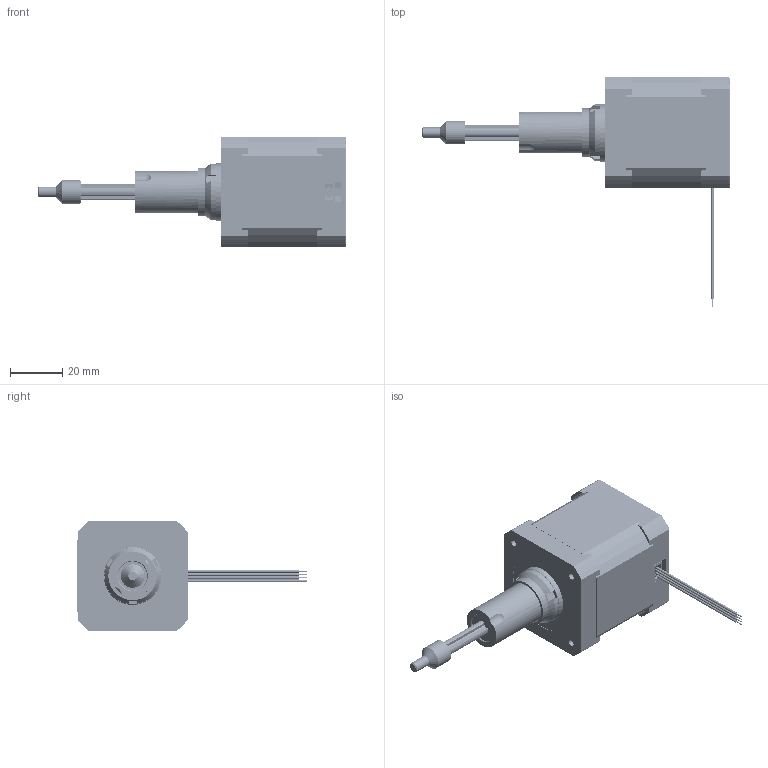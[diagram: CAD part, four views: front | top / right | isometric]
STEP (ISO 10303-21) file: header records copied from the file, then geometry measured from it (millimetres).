
FILE_DESCRIPTION((''),'2;1');
FILE_NAME('42CC4X-X-XXX-XXX_ASM','2023-03-24T',('guangyan.zhou'),(''),'CREO PARAMETRIC BY PTC INC, 2017300','CREO PARAMETRIC BY PTC INC, 2017300','');
FILE_SCHEMA(('CONFIG_CONTROL_DESIGN'));
Products named in the file (150): EB42-1003_AF0; ST42-1003_AF61; ST42-1003_AF62; ST42-1003_AF63; ST42-1003_AF64; ST42-1003_AF65; ST42-1003_AF66; ST42-1003_AF67; ST42-1003_AF68; ST42-1003_AF69; ST42-1003_AF70; ST42-1003_AF71; ST42-1003_AF72; ST42-1003_AF73; ST42-1003_AF74; ST42-1003_AF75; ST42-1003_AF76; ST42-1003_AF77; ST42-1003_AF78; ST42-1003_AF79; ST42-1003_AF80; ST42-1003_AF81; ST42-1003_AF82; ST42-1003_AF83; ST42-1003_AF84; ST42-1003_AF85; ST42-1003_AF86; ST42-1003_AF87; ST42-1003_AF88; ST42-1003_AF89; ST42-1003_AF90; ST42-1003_AF91; ST42-1003_AF92; ST42-1003_AF93; ST42-1003_AF94; ST42-1003_AF95; ST42-1003_AF96; ST42-1003_AF97; ST42-1003_AF98; ST42-1003_AF99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
Assembly tree (151 placements, depth 4):
  42CC4X-X-XXX-XXX_ASM
    EB42-1003_AF0
    ST42-1004_AF0_ASM
      ST42-1005_AF0_ASM
        ST42-1003_AF61
        ST42-1003_AF62
        ST42-1003_AF63
        ST42-1003_AF64
        ST42-1003_AF65
        ST42-1003_AF66
        ST42-1003_AF67
        ST42-1003_AF68
        ST42-1003_AF69
        ST42-1003_AF70
        ST42-1003_AF71
        ST42-1003_AF72
        ST42-1003_AF73
        ST42-1003_AF74
        ST42-1003_AF75
        ST42-1003_AF76
        ST42-1003_AF77
        ST42-1003_AF78
        ST42-1003_AF79
        ST42-1003_AF80
        ST42-1003_AF81
        ST42-1003_AF82
        ST42-1003_AF83
        ST42-1003_AF84
        ST42-1003_AF85
        ST42-1003_AF86
        ST42-1003_AF87
        ST42-1003_AF88
        ST42-1003_AF89
        ST42-1003_AF90
        ST42-1003_AF91
        ST42-1003_AF92
        ST42-1003_AF93
        ST42-1003_AF94
        ST42-1003_AF95
        ST42-1003_AF96
        ST42-1003_AF97
        ST42-1003_AF98
        ST42-1003_AF99
        ST42-1003_AF100
        ST42-1003_AF101
        ST42-1003_AF102
        ST42-1003_AF103
        ST42-1003_AF104
        ST42-1003_AF105
        ST42-1003_AF106
        ST42-1003_AF107
        ST42-1003_AF108
        ST42-1003_AF109
        ST42-1003_AF110
        ST42-1003_AF111
        ST42-1003_AF112
        ST42-1003_AF113
        ST42-1003_AF114
        ST42-1003_AF115
        ST42-1003_AF116
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Bounding box: 117.4 x 87.45 x 42.2 mm (x, y, z)
Volume: 31368.3 mm3; surface area: 83698 mm2
Topology: 117 solids, 133 shells, 6658 faces, 18976 edges, 12615 vertices
Faces by surface type: cylinder 3133, plane 2651, extrusion 727, bspline 73, cone 32, torus 32, sphere 10
Entity records: 251305 total; most frequent: CARTESIAN_POINT 68708, ORIENTED_EDGE 37882, DIRECTION 36613, EDGE_CURVE 18970, VERTEX_POINT 12615, AXIS2_PLACEMENT_3D 12574, VECTOR 11465, LINE 10738
